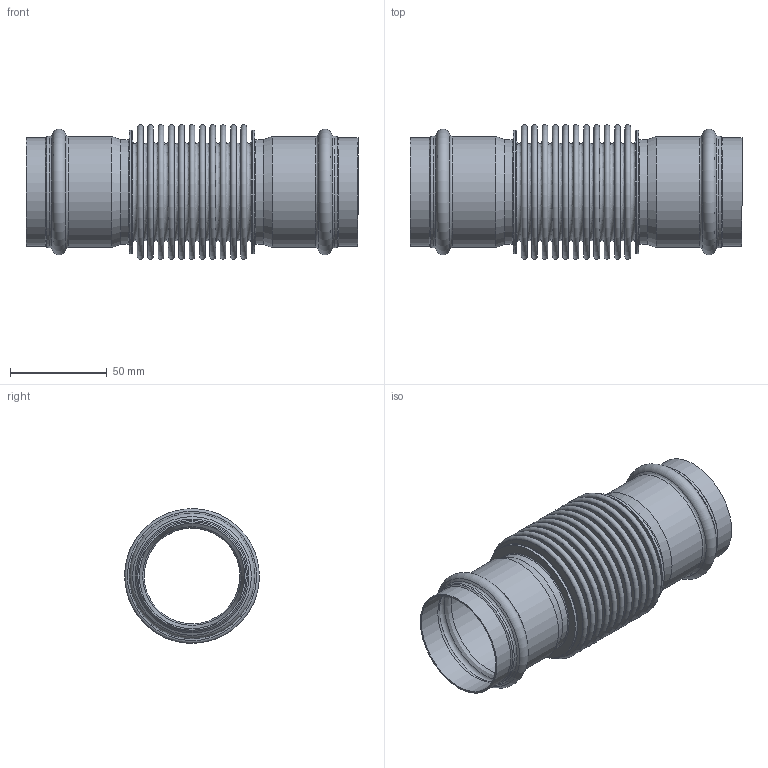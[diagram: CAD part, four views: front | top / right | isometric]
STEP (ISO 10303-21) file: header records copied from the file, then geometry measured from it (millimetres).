
FILE_DESCRIPTION((''),'2;1');
FILE_NAME('G:\Nirosan-Schmiedefeld\Technics\CAD\001 Serie 9.000\054\69872L54H(0).stp','2018-09-11T15:34:22',('herberg'),(''),'Autodesk Inventor 2009','Autodesk Inventor 2009','');
FILE_SCHEMA(('AUTOMOTIVE_DESIGN { 1 0 10303 214 1 1 1 1 }'));
Length unit declared in the file: millimetre
Products named in the file (3): 69872L54H(0); 69HMB54p(0); 69488L54P(0)
Assembly tree (3 placements, depth 2):
  69872L54H(0)
    69HMB54p(0)  x2
    69488L54P(0)
Bounding box: 171.4 x 69.52 x 69.52 mm (x, y, z)
Volume: 50509.1 mm3; surface area: 143807.3 mm2
Topology: 3 solids, 3 shells, 144 faces, 238 edges, 148 vertices
Faces by surface type: plane 54, bspline 36, torus 26, cylinder 18, cone 10
Full cylindrical faces by diameter (mm): 51 x2, 54 x2, 54.35 x4, 55.95 x2, 57.35 x4, 64 x4
Entity records: 4573 total; most frequent: CARTESIAN_POINT 2550, DIRECTION 432, ORIENTED_EDGE 240, EDGE_LOOP 240, AXIS2_PLACEMENT_3D 216, VERTEX_POINT 120, CIRCLE 120, EDGE_CURVE 120
